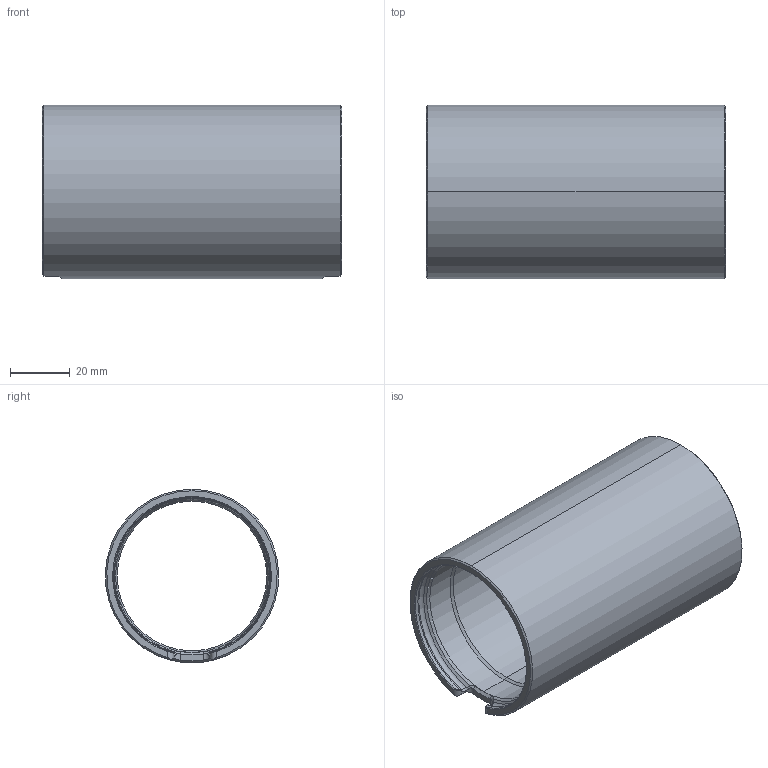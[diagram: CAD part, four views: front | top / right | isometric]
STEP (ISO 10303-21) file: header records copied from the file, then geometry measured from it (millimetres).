
FILE_DESCRIPTION (( 'STEP AP203' ), '1' );
FILE_NAME ('BR-106277-100_RevA.step', '2026-01-13T23:19:35', ( '' ), ( '' ), 'SwSTEP 2.0', 'SolidWorks 2024', '' );
FILE_SCHEMA (( 'CONFIG_CONTROL_DESIGN' ));
Length unit declared in the file: millimetre
Products named in the file (1): BR-106277-100
Bounding box: 100 x 57.96 x 58 mm (x, y, z)
Volume: 62610.6 mm3; surface area: 34962.5 mm2
Topology: 1 solids, 1 shells, 92 faces, 234 edges, 142 vertices
Faces by surface type: bspline 32, cylinder 20, cone 16, torus 12, plane 12
Entity records: 6544 total; most frequent: CARTESIAN_POINT 4576, ORIENTED_EDGE 468, DIRECTION 286, EDGE_CURVE 234, VERTEX_POINT 142, B_SPLINE_CURVE_WITH_KNOTS 128, AXIS2_PLACEMENT_3D 123, EDGE_LOOP 92
